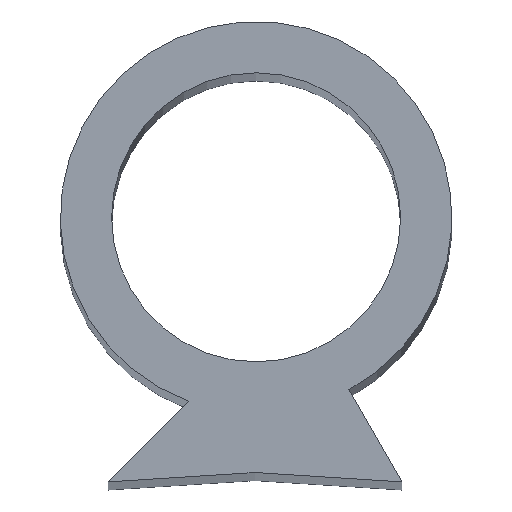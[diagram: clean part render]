
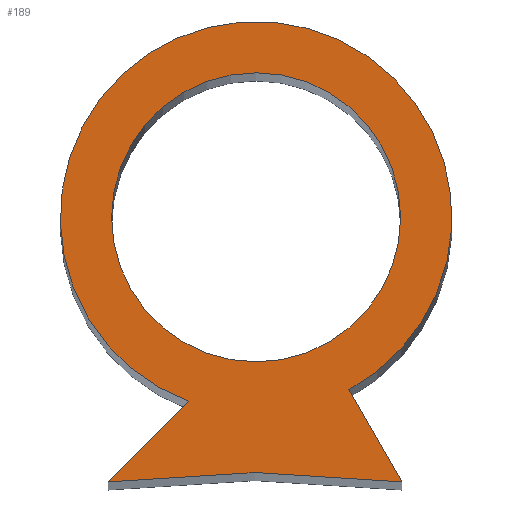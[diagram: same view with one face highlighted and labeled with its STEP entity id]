
A CAD part, top view. The second image highlights one B-rep face of the part: STEP entity #189.
In plain terms, the highlighted planar face has unit normal (0, 0, 1).
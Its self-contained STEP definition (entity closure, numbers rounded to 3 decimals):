
#3 = LINE ( 'NONE', #79, #38 ) ;
#23 = AXIS2_PLACEMENT_3D ( 'NONE', #193, #242, #62 ) ;
#24 = DIRECTION ( 'NONE',  ( 0.998, -0.063, 0. ) ) ;
#29 = DIRECTION ( 'NONE',  ( 0.998, 0.063, 0. ) ) ;
#33 = EDGE_LOOP ( 'NONE', ( #127, #251, #157, #130, #139 ) ) ;
#38 = VECTOR ( 'NONE', #172, 1000. ) ;
#46 = VECTOR ( 'NONE', #144, 1000. ) ;
#54 = EDGE_CURVE ( 'NONE', #202, #83, #179, .T. ) ;
#56 = VERTEX_POINT ( 'NONE', #135 ) ;
#60 = CARTESIAN_POINT ( 'NONE',  ( 3.15, 0.2, 100. ) ) ;
#62 = DIRECTION ( 'NONE',  ( 1., 0., 0. ) ) ;
#71 = DIRECTION ( 'NONE',  ( 1., 0., 0. ) ) ;
#77 = EDGE_CURVE ( 'NONE', #83, #205, #168, .T. ) ;
#79 = CARTESIAN_POINT ( 'NONE',  ( 1.73, 1.73, 100. ) ) ;
#80 = CARTESIAN_POINT ( 'NONE',  ( 3.173, 5.674, 100. ) ) ;
#83 = VERTEX_POINT ( 'NONE', #223 ) ;
#90 = EDGE_CURVE ( 'NONE', #155, #108, #3, .T. ) ;
#99 = LINE ( 'NONE', #231, #192 ) ;
#100 = EDGE_CURVE ( 'NONE', #108, #202, #99, .T. ) ;
#101 = CARTESIAN_POINT ( 'NONE',  ( 0., 0., 100. ) ) ;
#103 = EDGE_CURVE ( 'NONE', #205, #155, #137, .T. ) ;
#105 = EDGE_LOOP ( 'NONE', ( #176 ) ) ;
#106 = FACE_BOUND ( 'NONE', #105, .T. ) ;
#108 = VERTEX_POINT ( 'NONE', #101 ) ;
#109 = CARTESIAN_POINT ( 'NONE',  ( 3.173, 5.674, 100. ) ) ;
#116 = CARTESIAN_POINT ( 'NONE',  ( 3.15, 0.2, 100. ) ) ;
#125 = CARTESIAN_POINT ( 'NONE',  ( 1.73, 1.73, 100. ) ) ;
#127 = ORIENTED_EDGE ( 'NONE', *, *, #54, .T. ) ;
#129 = CIRCLE ( 'NONE', #23, 3.1 ) ;
#130 = ORIENTED_EDGE ( 'NONE', *, *, #90, .T. ) ;
#135 = CARTESIAN_POINT ( 'NONE',  ( 6.273, 5.674, 100. ) ) ;
#137 = CIRCLE ( 'NONE', #164, 4.2 ) ;
#139 = ORIENTED_EDGE ( 'NONE', *, *, #100, .T. ) ;
#144 = DIRECTION ( 'NONE',  ( -0.5, 0.866, 0. ) ) ;
#147 = FACE_OUTER_BOUND ( 'NONE', #33, .T. ) ;
#155 = VERTEX_POINT ( 'NONE', #125 ) ;
#157 = ORIENTED_EDGE ( 'NONE', *, *, #103, .T. ) ;
#164 = AXIS2_PLACEMENT_3D ( 'NONE', #80, #246, #244 ) ;
#168 = LINE ( 'NONE', #241, #46 ) ;
#172 = DIRECTION ( 'NONE',  ( -0.707, -0.707, 0. ) ) ;
#176 = ORIENTED_EDGE ( 'NONE', *, *, #185, .F. ) ;
#179 = LINE ( 'NONE', #60, #248 ) ;
#185 = EDGE_CURVE ( 'NONE', #56, #56, #129, .T. ) ;
#189 = ADVANCED_FACE ( 'NONE', ( #147, #106 ), #250, .T. ) ;
#192 = VECTOR ( 'NONE', #29, 1000. ) ;
#193 = CARTESIAN_POINT ( 'NONE',  ( 3.173, 5.674, 100. ) ) ;
#200 = DIRECTION ( 'NONE',  ( 0., 0., 1. ) ) ;
#202 = VERTEX_POINT ( 'NONE', #116 ) ;
#205 = VERTEX_POINT ( 'NONE', #208 ) ;
#208 = CARTESIAN_POINT ( 'NONE',  ( 5.16, 1.974, 100. ) ) ;
#211 = AXIS2_PLACEMENT_3D ( 'NONE', #109, #200, #71 ) ;
#223 = CARTESIAN_POINT ( 'NONE',  ( 6.3, 0., 100. ) ) ;
#231 = CARTESIAN_POINT ( 'NONE',  ( 0., 0., 100. ) ) ;
#241 = CARTESIAN_POINT ( 'NONE',  ( 6.3, 0., 100. ) ) ;
#242 = DIRECTION ( 'NONE',  ( 0., 0., 1. ) ) ;
#244 = DIRECTION ( 'NONE',  ( 1., 0., 0. ) ) ;
#246 = DIRECTION ( 'NONE',  ( 0., 0., 1. ) ) ;
#248 = VECTOR ( 'NONE', #24, 1000. ) ;
#250 = PLANE ( 'NONE',  #211 ) ;
#251 = ORIENTED_EDGE ( 'NONE', *, *, #77, .T. ) ;
